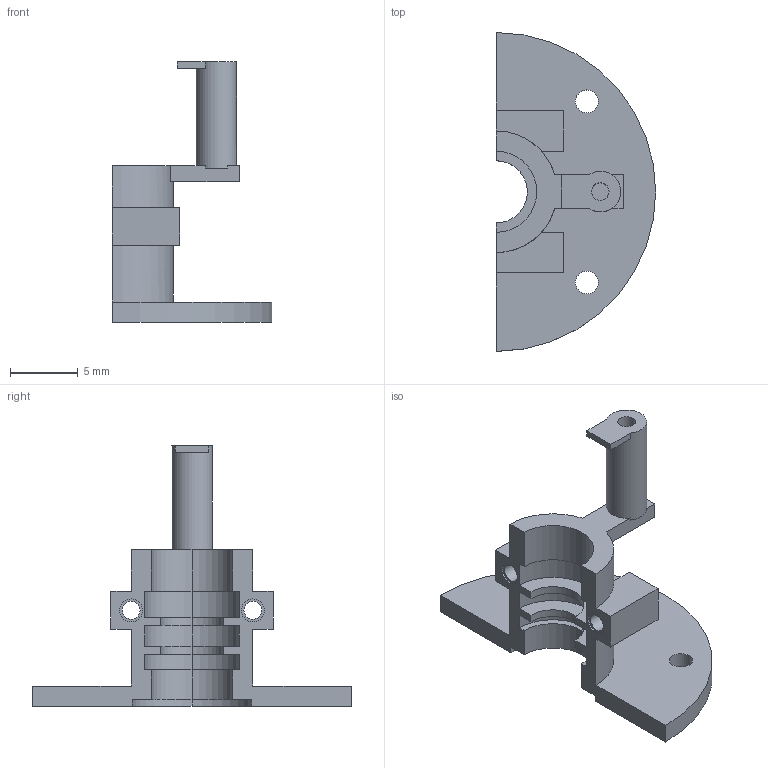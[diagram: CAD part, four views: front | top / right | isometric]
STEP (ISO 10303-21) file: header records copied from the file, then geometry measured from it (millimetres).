
FILE_DESCRIPTION(('Open CASCADE Model'),'2;1');
FILE_NAME('Open CASCADE Shape Model','2026-09-24T17:42:53',('Author'),( 'Open CASCADE'),'Open CASCADE STEP processor 7.8','Open CASCADE 7.8' ,'Unknown');
FILE_SCHEMA(('AUTOMOTIVE_DESIGN { 1 0 10303 214 1 1 1 1 }'));
Length unit declared in the file: millimetre
Products named in the file (1): Open CASCADE STEP translator 7.8 19
Bounding box: 11.8 x 23.6 x 19.29 mm (x, y, z)
Volume: 565.2 mm3; surface area: 1113.4 mm2
Topology: 1 solids, 1 shells, 65 faces, 180 edges, 120 vertices
Faces by surface type: plane 37, cylinder 28
Full cylindrical faces by diameter (mm): 1.3 x1, 1.32 x2, 1.7 x4, 3 x1
Entity records: 4355 total; most frequent: CARTESIAN_POINT 848, DIRECTION 623, ORIENTED_EDGE 360, PCURVE 360, DEFINITIONAL_REPRESENTATION 360, LINE 288, VECTOR 288, EDGE_CURVE 180
